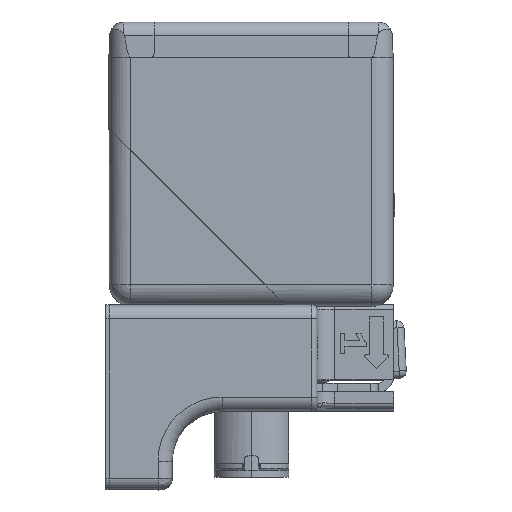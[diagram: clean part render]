
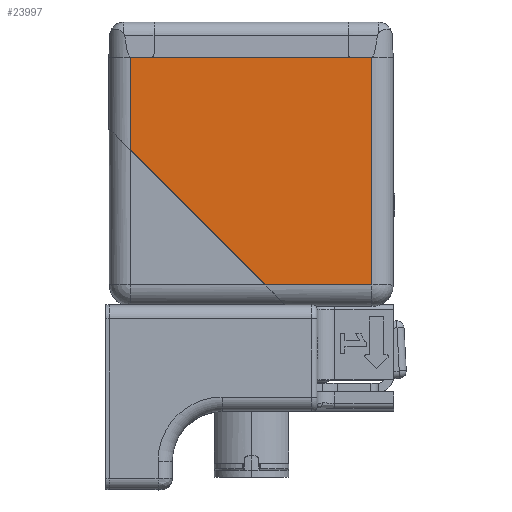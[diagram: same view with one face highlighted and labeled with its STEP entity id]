
A CAD part, top view. The second image highlights one B-rep face of the part: STEP entity #23997.
In plain terms, the highlighted planar face has unit normal (0, 0, 1).
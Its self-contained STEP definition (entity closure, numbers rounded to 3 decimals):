
#106 = DIRECTION ( 'NONE',  ( 1., 0., 0. ) ) ;
#624 = CARTESIAN_POINT ( 'NONE',  ( -17., 2.68, 20. ) ) ;
#1024 = PLANE ( 'NONE',  #30874 ) ;
#2238 = ORIENTED_EDGE ( 'NONE', *, *, #24278, .F. ) ;
#2525 = EDGE_CURVE ( 'NONE', #28139, #29063, #32981, .T. ) ;
#2534 = EDGE_CURVE ( 'NONE', #31219, #28426, #29536, .T. ) ;
#3011 = EDGE_CURVE ( 'NONE', #28426, #11047, #11650, .T. ) ;
#3523 = DIRECTION ( 'NONE',  ( 0., 1., 0. ) ) ;
#3880 = CARTESIAN_POINT ( 'NONE',  ( -14.15, 35., 20. ) ) ;
#3890 = LINE ( 'NONE', #624, #28102 ) ;
#5921 = EDGE_CURVE ( 'NONE', #9738, #31219, #3890, .T. ) ;
#6441 = CARTESIAN_POINT ( 'NONE',  ( 17., 3., 20. ) ) ;
#6672 = DIRECTION ( 'NONE',  ( 0., -1., 0. ) ) ;
#8360 = ORIENTED_EDGE ( 'NONE', *, *, #5921, .F. ) ;
#9738 = VERTEX_POINT ( 'NONE', #26991 ) ;
#11047 = VERTEX_POINT ( 'NONE', #23362 ) ;
#11596 = CARTESIAN_POINT ( 'NONE',  ( -17., 35., 20. ) ) ;
#11650 = LINE ( 'NONE', #26423, #22961 ) ;
#12091 = ORIENTED_EDGE ( 'NONE', *, *, #28689, .T. ) ;
#12311 = LINE ( 'NONE', #24008, #23676 ) ;
#12377 = DIRECTION ( 'NONE',  ( 0., -1., 0. ) ) ;
#12719 = DIRECTION ( 'NONE',  ( 1., 0., 0. ) ) ;
#13127 = VECTOR ( 'NONE', #12719, 1000. ) ;
#13147 = VECTOR ( 'NONE', #6672, 1000. ) ;
#14179 = VERTEX_POINT ( 'NONE', #33473 ) ;
#14617 = DIRECTION ( 'NONE',  ( 0.707, -0.707, 0. ) ) ;
#14744 = DIRECTION ( 'NONE',  ( -1., 0., 0. ) ) ;
#14964 = DIRECTION ( 'NONE',  ( 1., 0., 0. ) ) ;
#16644 = ORIENTED_EDGE ( 'NONE', *, *, #2525, .F. ) ;
#18895 = ORIENTED_EDGE ( 'NONE', *, *, #3011, .F. ) ;
#21769 = CARTESIAN_POINT ( 'NONE',  ( 17.34, 2.68, 20. ) ) ;
#22700 = ORIENTED_EDGE ( 'NONE', *, *, #2534, .F. ) ;
#22961 = VECTOR ( 'NONE', #106, 1000. ) ;
#23181 = LINE ( 'NONE', #29142, #29597 ) ;
#23362 = CARTESIAN_POINT ( 'NONE',  ( 14.15, 35., 20. ) ) ;
#23676 = VECTOR ( 'NONE', #14617, 1000. ) ;
#23780 = CARTESIAN_POINT ( 'NONE',  ( 17.34, 35., 20. ) ) ;
#23965 = CARTESIAN_POINT ( 'NONE',  ( 17., 2.68, 20. ) ) ;
#23997 = ADVANCED_FACE ( 'NONE', ( #35608 ), #1024, .F. ) ;
#24008 = CARTESIAN_POINT ( 'NONE',  ( 5.25, -0.25, 20. ) ) ;
#24278 = EDGE_CURVE ( 'NONE', #11047, #28139, #35561, .T. ) ;
#24460 = DIRECTION ( 'NONE',  ( 0., 0., -1. ) ) ;
#26423 = CARTESIAN_POINT ( 'NONE',  ( 17.34, 35., 20. ) ) ;
#26991 = CARTESIAN_POINT ( 'NONE',  ( -17., 22., 20. ) ) ;
#27141 = EDGE_LOOP ( 'NONE', ( #2238, #18895, #22700, #8360, #12091, #36390, #16644 ) ) ;
#27302 = CARTESIAN_POINT ( 'NONE',  ( 17.34, 35., 20. ) ) ;
#28102 = VECTOR ( 'NONE', #3523, 1000. ) ;
#28139 = VERTEX_POINT ( 'NONE', #29049 ) ;
#28426 = VERTEX_POINT ( 'NONE', #3880 ) ;
#28689 = EDGE_CURVE ( 'NONE', #9738, #14179, #12311, .T. ) ;
#29045 = VECTOR ( 'NONE', #14964, 1000. ) ;
#29049 = CARTESIAN_POINT ( 'NONE',  ( 17., 35., 20. ) ) ;
#29063 = VERTEX_POINT ( 'NONE', #6441 ) ;
#29142 = CARTESIAN_POINT ( 'NONE',  ( 1.85, 3., 20. ) ) ;
#29536 = LINE ( 'NONE', #23780, #29045 ) ;
#29597 = VECTOR ( 'NONE', #14744, 1000. ) ;
#30874 = AXIS2_PLACEMENT_3D ( 'NONE', #21769, #24460, #12377 ) ;
#31219 = VERTEX_POINT ( 'NONE', #11596 ) ;
#32981 = LINE ( 'NONE', #23965, #13147 ) ;
#33473 = CARTESIAN_POINT ( 'NONE',  ( 2., 3., 20. ) ) ;
#33674 = EDGE_CURVE ( 'NONE', #29063, #14179, #23181, .T. ) ;
#35561 = LINE ( 'NONE', #27302, #13127 ) ;
#35608 = FACE_OUTER_BOUND ( 'NONE', #27141, .T. ) ;
#36390 = ORIENTED_EDGE ( 'NONE', *, *, #33674, .F. ) ;
